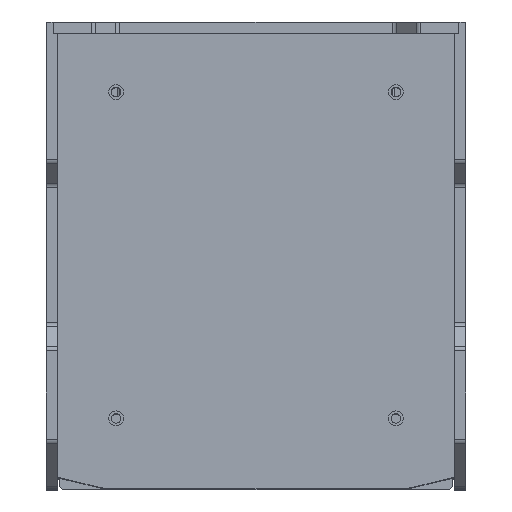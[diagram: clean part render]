
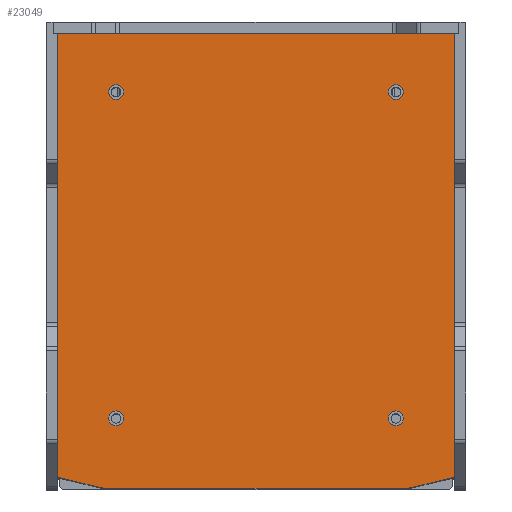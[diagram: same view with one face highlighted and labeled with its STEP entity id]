
A CAD part, top view. The second image highlights one B-rep face of the part: STEP entity #23049.
In plain terms, the highlighted planar face has unit normal (0, 0, 1).
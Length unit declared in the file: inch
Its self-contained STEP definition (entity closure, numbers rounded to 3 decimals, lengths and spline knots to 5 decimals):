
#646=FACE_BOUND('',#4185,.T.);
#647=FACE_BOUND('',#4186,.T.);
#648=FACE_BOUND('',#4187,.T.);
#649=FACE_BOUND('',#4188,.T.);
#1322=PLANE('',#25322);
#2508=FACE_OUTER_BOUND('',#4184,.T.);
#4184=EDGE_LOOP('',(#20992,#20993,#20994,#20995,#20996,#20997,#20998,#20999,
#21000,#21001));
#4185=EDGE_LOOP('',(#21002));
#4186=EDGE_LOOP('',(#21003));
#4187=EDGE_LOOP('',(#21004));
#4188=EDGE_LOOP('',(#21005));
#6301=LINE('',#38381,#8483);
#6311=LINE('',#38414,#8493);
#6322=LINE('',#38464,#8504);
#6324=LINE('',#38468,#8506);
#6326=LINE('',#38472,#8508);
#6328=LINE('',#38475,#8510);
#6329=LINE('',#38477,#8511);
#6330=LINE('',#38479,#8512);
#8483=VECTOR('',#31622,0.3937);
#8493=VECTOR('',#31650,0.3937);
#8504=VECTOR('',#31711,0.3937);
#8506=VECTOR('',#31715,0.3937);
#8508=VECTOR('',#31719,0.3937);
#8510=VECTOR('',#31723,0.3937);
#8511=VECTOR('',#31726,0.3937);
#8512=VECTOR('',#31729,0.3937);
#9582=CIRCLE('',#25280,0.235);
#9589=CIRCLE('',#25290,0.235);
#9590=CIRCLE('',#25293,0.32);
#9593=CIRCLE('',#25298,0.32);
#9596=CIRCLE('',#25303,0.32);
#9599=CIRCLE('',#25308,0.32);
#11614=VERTEX_POINT('',#38368);
#11615=VERTEX_POINT('',#38369);
#11619=VERTEX_POINT('',#38379);
#11631=VERTEX_POINT('',#38407);
#11632=VERTEX_POINT('',#38408);
#11633=VERTEX_POINT('',#38413);
#11634=VERTEX_POINT('',#38417);
#11637=VERTEX_POINT('',#38426);
#11640=VERTEX_POINT('',#38435);
#11643=VERTEX_POINT('',#38444);
#11646=VERTEX_POINT('',#38461);
#11647=VERTEX_POINT('',#38463);
#11648=VERTEX_POINT('',#38467);
#11649=VERTEX_POINT('',#38471);
#14737=EDGE_CURVE('',#11614,#11615,#9582,.T.);
#14743=EDGE_CURVE('',#11614,#11619,#6301,.T.);
#14756=EDGE_CURVE('',#11631,#11632,#9589,.T.);
#14759=EDGE_CURVE('',#11633,#11632,#6311,.T.);
#14761=EDGE_CURVE('',#11634,#11634,#9590,.T.);
#14765=EDGE_CURVE('',#11637,#11637,#9593,.T.);
#14769=EDGE_CURVE('',#11640,#11640,#9596,.T.);
#14773=EDGE_CURVE('',#11643,#11643,#9599,.T.);
#14782=EDGE_CURVE('',#11647,#11646,#6322,.T.);
#14784=EDGE_CURVE('',#11648,#11647,#6324,.T.);
#14786=EDGE_CURVE('',#11649,#11648,#6326,.T.);
#14788=EDGE_CURVE('',#11619,#11649,#6328,.T.);
#14789=EDGE_CURVE('',#11631,#11615,#6329,.T.);
#14790=EDGE_CURVE('',#11646,#11633,#6330,.T.);
#20992=ORIENTED_EDGE('',*,*,#14737,.F.);
#20993=ORIENTED_EDGE('',*,*,#14743,.T.);
#20994=ORIENTED_EDGE('',*,*,#14788,.T.);
#20995=ORIENTED_EDGE('',*,*,#14786,.T.);
#20996=ORIENTED_EDGE('',*,*,#14784,.T.);
#20997=ORIENTED_EDGE('',*,*,#14782,.T.);
#20998=ORIENTED_EDGE('',*,*,#14790,.T.);
#20999=ORIENTED_EDGE('',*,*,#14759,.T.);
#21000=ORIENTED_EDGE('',*,*,#14756,.F.);
#21001=ORIENTED_EDGE('',*,*,#14789,.T.);
#21002=ORIENTED_EDGE('',*,*,#14761,.T.);
#21003=ORIENTED_EDGE('',*,*,#14765,.T.);
#21004=ORIENTED_EDGE('',*,*,#14769,.T.);
#21005=ORIENTED_EDGE('',*,*,#14773,.T.);
#23049=ADVANCED_FACE('',(#2508,#646,#647,#648,#649),#1322,.T.);
#25280=AXIS2_PLACEMENT_3D('',#38370,#31612,#31613);
#25290=AXIS2_PLACEMENT_3D('',#38409,#31644,#31645);
#25293=AXIS2_PLACEMENT_3D('',#38418,#31654,#31655);
#25298=AXIS2_PLACEMENT_3D('',#38427,#31665,#31666);
#25303=AXIS2_PLACEMENT_3D('',#38436,#31676,#31677);
#25308=AXIS2_PLACEMENT_3D('',#38445,#31687,#31688);
#25322=AXIS2_PLACEMENT_3D('',#38480,#31730,#31731);
#31612=DIRECTION('center_axis',(0.,0.,-1.));
#31613=DIRECTION('ref_axis',(0.118,-0.993,0.));
#31622=DIRECTION('',(0.972,0.233,0.));
#31644=DIRECTION('center_axis',(0.,0.,-1.));
#31645=DIRECTION('ref_axis',(-0.118,-0.993,0.));
#31650=DIRECTION('',(0.972,-0.233,0.));
#31654=DIRECTION('center_axis',(0.,0.,-1.));
#31655=DIRECTION('ref_axis',(1.,0.,0.));
#31665=DIRECTION('center_axis',(0.,0.,-1.));
#31666=DIRECTION('ref_axis',(1.,0.,0.));
#31676=DIRECTION('center_axis',(0.,0.,-1.));
#31677=DIRECTION('ref_axis',(1.,0.,0.));
#31687=DIRECTION('center_axis',(0.,0.,-1.));
#31688=DIRECTION('ref_axis',(1.,0.,0.));
#31711=DIRECTION('',(0.,-1.,0.));
#31715=DIRECTION('',(-1.,0.,0.));
#31719=DIRECTION('',(0.,1.,0.));
#31723=DIRECTION('',(1.,0.,0.));
#31726=DIRECTION('',(1.,0.,0.));
#31729=DIRECTION('',(1.,0.,0.));
#31730=DIRECTION('center_axis',(0.,0.,1.));
#31731=DIRECTION('ref_axis',(1.,0.,0.));
#38368=CARTESIAN_POINT('',(6.54704,0.00649,35.68));
#38369=CARTESIAN_POINT('',(6.49219,0.,35.68));
#38370=CARTESIAN_POINT('Origin',(6.49219,0.235,35.68));
#38379=CARTESIAN_POINT('',(8.52,0.48,35.68));
#38381=CARTESIAN_POINT('',(6.52,0.,35.68));
#38407=CARTESIAN_POINT('',(-6.49219,0.,35.68));
#38408=CARTESIAN_POINT('',(-6.54704,0.00649,35.68));
#38409=CARTESIAN_POINT('Origin',(-6.49219,0.235,35.68));
#38413=CARTESIAN_POINT('',(-8.52,0.48,35.68));
#38414=CARTESIAN_POINT('',(-6.52,0.,35.68));
#38417=CARTESIAN_POINT('',(-6.32,17.,35.68));
#38418=CARTESIAN_POINT('Origin',(-6.,17.,35.68));
#38426=CARTESIAN_POINT('',(5.68,3.,35.68));
#38427=CARTESIAN_POINT('Origin',(6.,3.,35.68));
#38435=CARTESIAN_POINT('',(-6.32,3.,35.68));
#38436=CARTESIAN_POINT('Origin',(-6.,3.,35.68));
#38444=CARTESIAN_POINT('',(5.68,17.,35.68));
#38445=CARTESIAN_POINT('Origin',(6.,17.,35.68));
#38461=CARTESIAN_POINT('',(-8.7,0.48,35.68));
#38463=CARTESIAN_POINT('',(-8.7,19.7,35.68));
#38464=CARTESIAN_POINT('',(-8.7,0.48,35.68));
#38467=CARTESIAN_POINT('',(8.7,19.7,35.68));
#38468=CARTESIAN_POINT('',(-8.7,19.7,35.68));
#38471=CARTESIAN_POINT('',(8.7,0.48,35.68));
#38472=CARTESIAN_POINT('',(8.7,19.7,35.68));
#38475=CARTESIAN_POINT('',(8.7,0.48,35.68));
#38477=CARTESIAN_POINT('',(6.52,0.,35.68));
#38479=CARTESIAN_POINT('',(-8.7,0.48,35.68));
#38480=CARTESIAN_POINT('Origin',(0.,9.85,
35.68));
